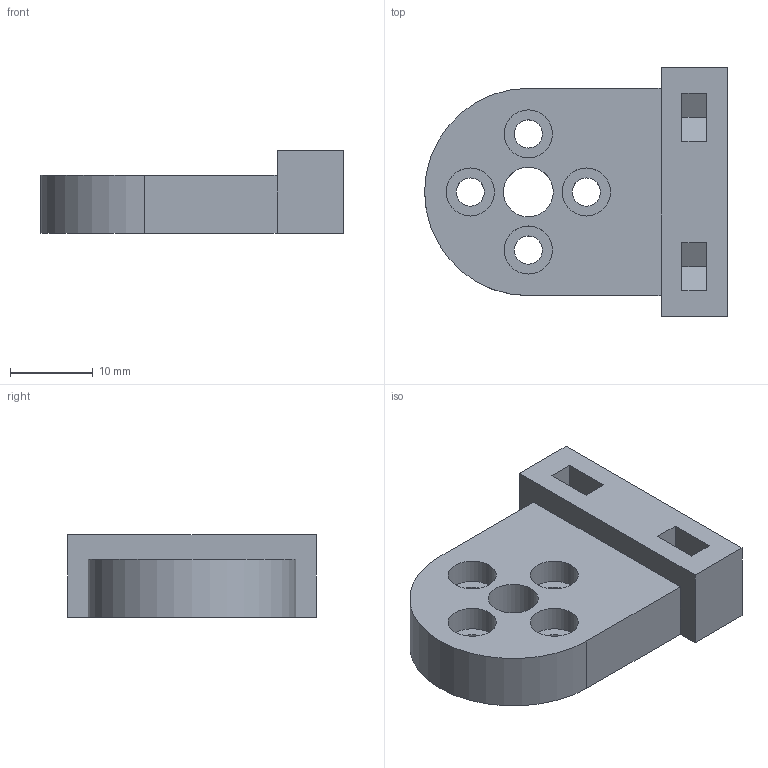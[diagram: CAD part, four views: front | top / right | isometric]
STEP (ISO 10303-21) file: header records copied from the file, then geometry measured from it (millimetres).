
FILE_DESCRIPTION(('Open CASCADE Model'),'2;1');
FILE_NAME('Open CASCADE Shape Model','2026-09-12T11:56:45',('Author'),( 'Open CASCADE'),'Open CASCADE STEP processor 7.9','Open CASCADE 7.9' ,'Unknown');
FILE_SCHEMA(('AUTOMOTIVE_DESIGN { 1 0 10303 214 1 1 1 1 }'));
Length unit declared in the file: millimetre
Products named in the file (2): =>[0:1:1:2]; V2_1_identical_metal_horn_cheek_print_two_per_ankle
Assembly tree (1 placements, depth 2):
  =>[0:1:1:2]
    V2_1_identical_metal_horn_cheek_print_two_per_ankle
Bounding box: 36.5 x 30 x 10 mm (x, y, z)
Volume: 5862.8 mm3; surface area: 3621.2 mm2
Topology: 1 solids, 1 shells, 53 faces, 129 edges, 86 vertices
Faces by surface type: plane 35, cylinder 18
Full cylindrical faces by diameter (mm): 3.4 x4, 5.8 x4, 6 x1
Entity records: 3288 total; most frequent: CARTESIAN_POINT 557, DIRECTION 504, LINE 286, VECTOR 286, ORIENTED_EDGE 258, PCURVE 258, DEFINITIONAL_REPRESENTATION 258, EDGE_CURVE 129
